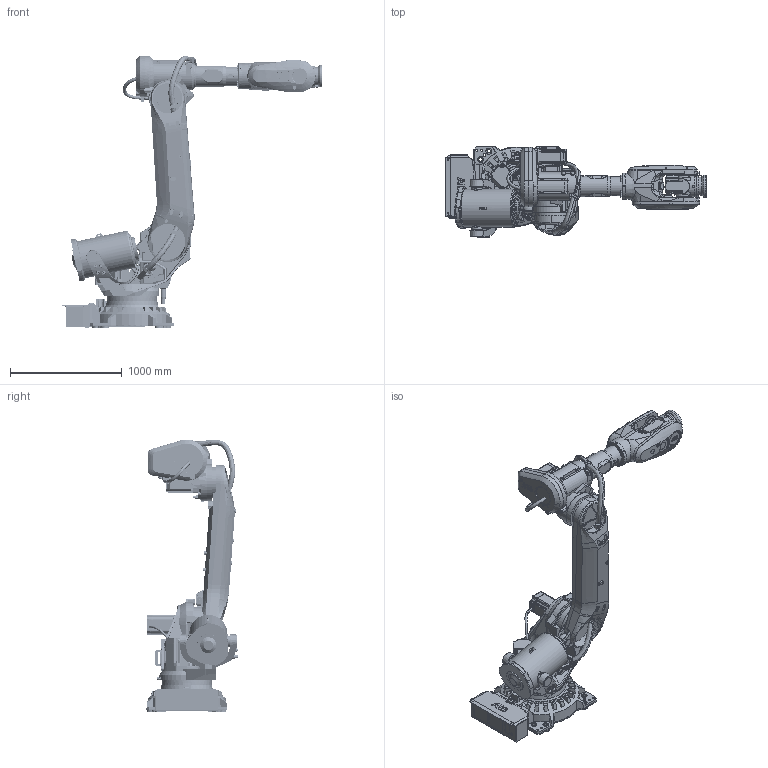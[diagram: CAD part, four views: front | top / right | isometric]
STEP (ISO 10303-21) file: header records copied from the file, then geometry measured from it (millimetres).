
FILE_DESCRIPTION(/* description */ (''),/* implementation_level */ '2;1');
FILE_NAME(/* name */ 'E:\组装完成的图纸\IRB 6700\IRB 6700-205-2.8\IRB 6700-205-2.8.stp',/* time_stamp */ '2023-11-04T19:34:25+08:00',/* author */ ('Administrator'),/* organization */ (''),/* preprocessor_version */ 'ST-DEVELOPER v16.5',/* originating_system */ 'Autodesk Inventor 2017',/* authorisation */ '');
FILE_SCHEMA (('AUTOMOTIVE_DESIGN { 1 0 10303 214 3 1 1 }'));
Products named in the file (16): 部件3; IRB6700_205-280_IRC5_rev00_LOGO1_CAD; IRB6700_205-280_IRC5_rev00_LOGO2_CAD; IRB6700_205-280_IRC5_rev00_LOGO3_CAD; IRB6700_205-280_IRC5_rev01_BASE_CAD; IRB6700_205-280_IRC5_rev01_LINK02m_CABLE; IRB6700_205-280_IRC5_rev02_LINK01m_CABLE; IRB6700_205-280_IRC5_rev02_LINK03m_CABLE; IRB6700_205-280_IRC5_rev02_LINK04_CAD; IRB6700_205-280_IRC5_rev02_LINK06_CAD; IRB6700_205-280_IRC5_rev03_LINK02_CAD; IRB6700_205-280_IRC5_rev03_ROD_CAD; IRB6700_205-280_IRC5_rev04_LINK05_CAD; IRB6700_205-280_IRC5_rev05_LINK03_CAD; IRB6700_205-280_IRC5_rev06_CYLINDER_CAD; IRB6700_205-280_IRC5_rev06_LINK01_CAD
Assembly tree (15 placements, depth 2):
  部件3
    IRB6700_205-280_IRC5_rev00_LOGO1_CAD
    IRB6700_205-280_IRC5_rev00_LOGO2_CAD
    IRB6700_205-280_IRC5_rev00_LOGO3_CAD
    IRB6700_205-280_IRC5_rev01_BASE_CAD
    IRB6700_205-280_IRC5_rev01_LINK02m_CABLE
    IRB6700_205-280_IRC5_rev02_LINK01m_CABLE
    IRB6700_205-280_IRC5_rev02_LINK03m_CABLE
    IRB6700_205-280_IRC5_rev02_LINK04_CAD
    IRB6700_205-280_IRC5_rev02_LINK06_CAD
    IRB6700_205-280_IRC5_rev03_LINK02_CAD
    IRB6700_205-280_IRC5_rev03_ROD_CAD
    IRB6700_205-280_IRC5_rev04_LINK05_CAD
    IRB6700_205-280_IRC5_rev05_LINK03_CAD
    IRB6700_205-280_IRC5_rev06_CYLINDER_CAD
    IRB6700_205-280_IRC5_rev06_LINK01_CAD
Bounding box: 2329.5 x 816 x 2445.25 mm (x, y, z)
Volume: 447773937.8 mm3; surface area: 13076185 mm2
Topology: 17 solids, 19 shells, 5380 faces, 14245 edges, 9218 vertices
Faces by surface type: plane 3322, cylinder 1082, cone 523, bspline 432, torus 16, sphere 5
Full cylindrical faces by diameter (mm): 5 x23, 6 x14, 6.5 x4, 6.6 x9, 6.8 x12, 7 x16, 7.1 x2, 7.5 x8, 8 x2, 8.3 x4, 8.5 x4, 8.6 x4, 8.8 x4, 9 x5, 10 x4, 10.2 x37, 11.05 x4, 12 x1, 12.5 x2, 13 x1, 14 x6, 14.385 x3, 16 x1, 16.3 x1, 17.5 x8, 17.583 x1, 17.6 x1, 17.608 x1, 18 x15, 18.2 x4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
Entity records: 232024 total; most frequent: CARTESIAN_POINT 102883, ORIENTED_EDGE 26916, DIRECTION 25120, EDGE_CURVE 13458, VERTEX_POINT 9010, AXIS2_PLACEMENT_3D 8481, LINE 8158, VECTOR 8158
